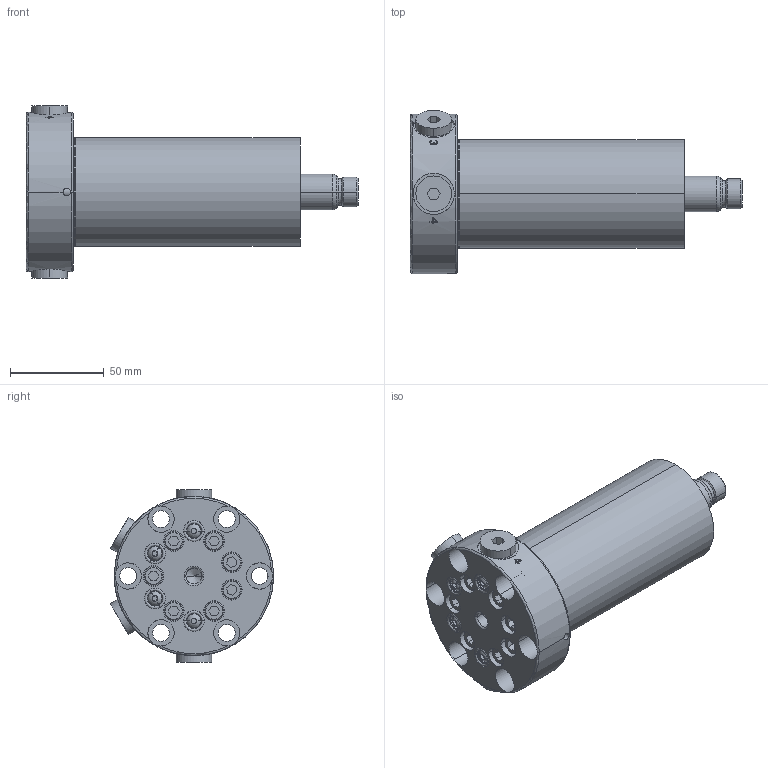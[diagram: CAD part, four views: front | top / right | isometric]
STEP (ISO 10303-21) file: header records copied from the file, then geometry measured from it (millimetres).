
FILE_DESCRIPTION((''),'2;1');
FILE_NAME('MPFL-50_ASM','2012-09-17T',('chad.steele'),(''),'PRO/ENGINEER BY PARAMETRIC TECHNOLOGY CORPORATION, 2010040','PRO/ENGINEER BY PARAMETRIC TECHNOLOGY CORPORATION, 2010040','');
FILE_SCHEMA(('CONFIG_CONTROL_DESIGN'));
Length unit declared in the file: millimetre
Products named in the file (10): DW1467101; CCA625028; PA1303167; CBA409028-1E; B1011803; CS235006; CZ628030; CY567047; CV363040; MPFL-50_ASM
Assembly tree (27 placements, depth 2):
  MPFL-50_ASM
    DW1467101
    CCA625028  x7
    PA1303167  x4
    CBA409028-1E  x4
    B1011803  x4
    CS235006  x4
    CZ628030
    CY567047
    CV363040
Bounding box: 177.15 x 87.02 x 91.81 mm (x, y, z)
Volume: 419724.6 mm3; surface area: 113461.3 mm2
Topology: 27 solids, 44 shells, 808 faces, 1917 edges, 1216 vertices
Faces by surface type: plane 332, cylinder 308, cone 100, torus 60, sphere 8
Entity records: 18035 total; most frequent: CARTESIAN_POINT 4147, DIRECTION 3005, ORIENTED_EDGE 2672, EDGE_CURVE 1375, AXIS2_PLACEMENT_3D 1207, VERTEX_POINT 886, EDGE_LOOP 677, CIRCLE 605
